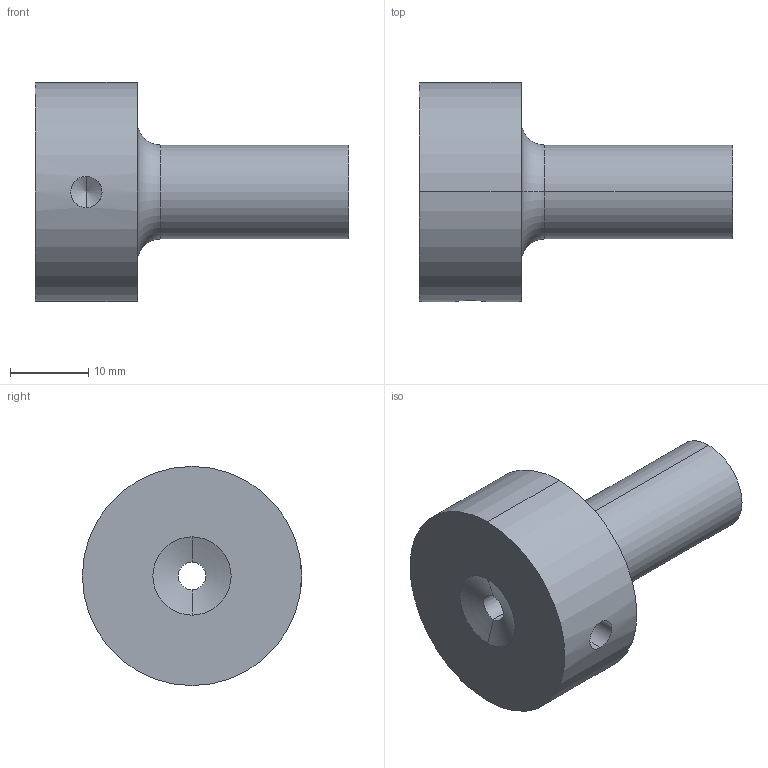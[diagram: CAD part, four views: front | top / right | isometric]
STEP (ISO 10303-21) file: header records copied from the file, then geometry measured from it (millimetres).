
FILE_DESCRIPTION (( 'STEP AP214' ), '1' );
FILE_NAME ('BR511 12X27X3,5X40.STEP', '2019-12-10T17:55:17', ( 'August' ), ( '' ), 'SwSTEP 2.0', 'SolidWorks 2018', '' );
FILE_SCHEMA (( 'AUTOMOTIVE_DESIGN' ));
Length unit declared in the file: millimetre
Products named in the file (1): BR511 12X27X3,5X40
Bounding box: 40 x 28 x 28 mm (x, y, z)
Volume: 10467.5 mm3; surface area: 3915.7 mm2
Topology: 1 solids, 1 shells, 17 faces, 36 edges, 21 vertices
Faces by surface type: cylinder 6, cone 4, torus 4, plane 3
Entity records: 538 total; most frequent: CARTESIAN_POINT 127, DIRECTION 90, ORIENTED_EDGE 68, AXIS2_PLACEMENT_3D 40, EDGE_CURVE 34, CIRCLE 22, EDGE_LOOP 21, VERTEX_POINT 21
